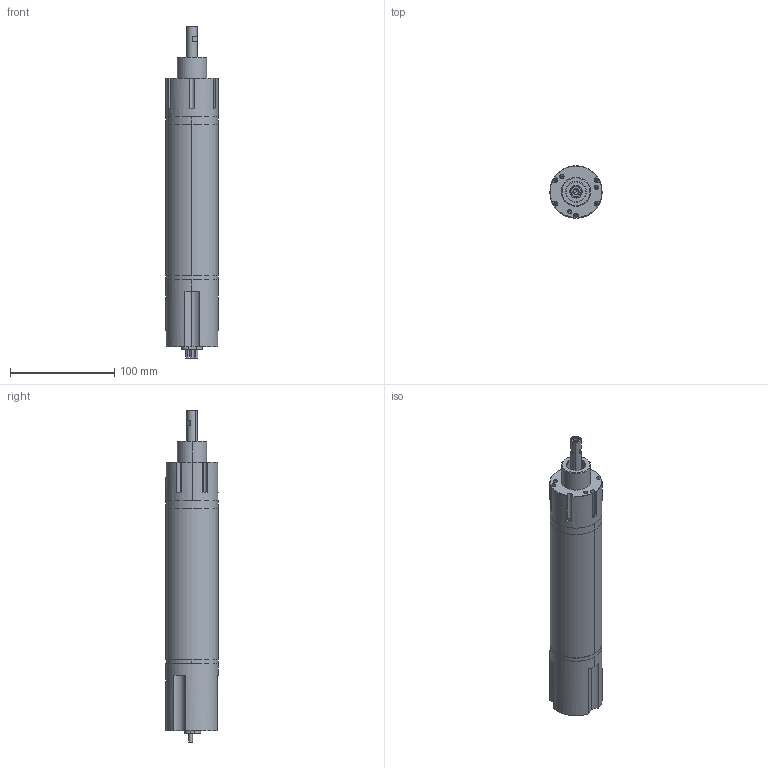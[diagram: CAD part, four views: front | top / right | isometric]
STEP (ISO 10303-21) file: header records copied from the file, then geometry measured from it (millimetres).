
FILE_DESCRIPTION (( 'STEP AP203' ), '1' );
FILE_NAME ('CBL50C-025-XX-2 OUTLINE.STEP', '2017-10-05T21:34:11', ( '' ), ( '' ), 'SwSTEP 2.0', 'SolidWorks 2016', '' );
FILE_SCHEMA (( 'CONFIG_CONTROL_DESIGN' ));
Length unit declared in the file: millimetre
Products named in the file (1): CBL50C-025-XX-2 OUTLINE
Bounding box: 50 x 50 x 318.5 mm (x, y, z)
Volume: 275460.9 mm3; surface area: 115515.7 mm2
Topology: 11 solids, 11 shells, 450 faces, 1161 edges, 712 vertices
Faces by surface type: cylinder 196, plane 137, cone 114, bspline 3
Entity records: 14706 total; most frequent: CARTESIAN_POINT 3509, DIRECTION 2459, ORIENTED_EDGE 2238, EDGE_CURVE 1119, AXIS2_PLACEMENT_3D 946, VERTEX_POINT 712, LINE 567, VECTOR 567
